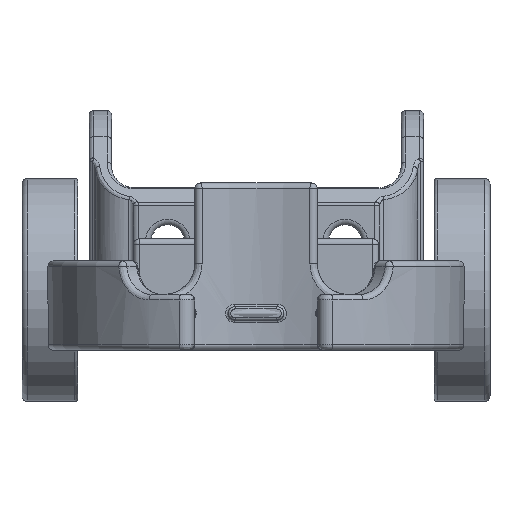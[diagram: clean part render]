
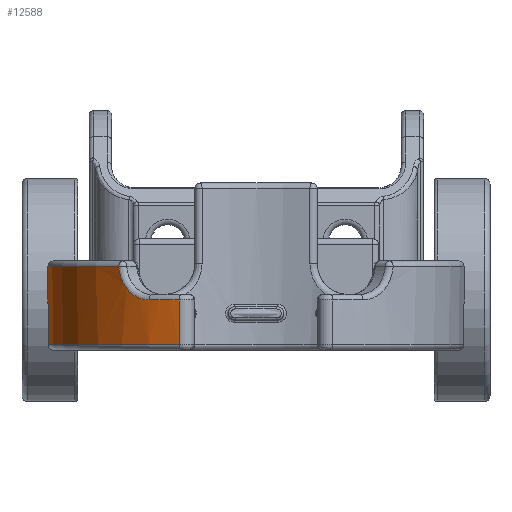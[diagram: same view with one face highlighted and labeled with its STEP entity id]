
A CAD part, front view. The second image highlights one B-rep face of the part: STEP entity #12588.
In plain terms, the highlighted cylindrical face has radius 18.7 mm (diameter 37.4 mm), a partial arc.
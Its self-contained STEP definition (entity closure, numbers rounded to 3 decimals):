
#406=B_SPLINE_CURVE_WITH_KNOTS('',3,(#20420,#20421,#20422,#20423,#20424),
 .UNSPECIFIED.,.F.,.F.,(4,1,4),(-0.489,-0.21,0.),
 .UNSPECIFIED.);
#799=LINE('',#20416,#1392);
#800=LINE('',#20427,#1393);
#1392=VECTOR('',#15576,10.);
#1393=VECTOR('',#15581,3.);
#1948=CYLINDRICAL_SURFACE('',#13619,18.7);
#2452=FACE_OUTER_BOUND('',#3308,.T.);
#3308=EDGE_LOOP('',(#8738,#8739,#8740,#8741,#8742,#8743));
#4267=CIRCLE('',#13615,18.7);
#4270=CIRCLE('',#13620,18.7);
#4271=CIRCLE('',#13621,18.7);
#5334=VERTEX_POINT('',#20389);
#5335=VERTEX_POINT('',#20393);
#5336=VERTEX_POINT('',#20415);
#5337=VERTEX_POINT('',#20417);
#5338=VERTEX_POINT('',#20419);
#5339=VERTEX_POINT('',#20425);
#6575=EDGE_CURVE('',#5334,#5335,#4267,.T.);
#6578=EDGE_CURVE('',#5336,#5334,#799,.T.);
#6579=EDGE_CURVE('',#5337,#5336,#4270,.T.);
#6580=EDGE_CURVE('',#5338,#5337,#406,.T.);
#6581=EDGE_CURVE('',#5339,#5338,#4271,.T.);
#6582=EDGE_CURVE('',#5335,#5339,#800,.T.);
#8738=ORIENTED_EDGE('',*,*,#6575,.F.);
#8739=ORIENTED_EDGE('',*,*,#6578,.F.);
#8740=ORIENTED_EDGE('',*,*,#6579,.F.);
#8741=ORIENTED_EDGE('',*,*,#6580,.F.);
#8742=ORIENTED_EDGE('',*,*,#6581,.F.);
#8743=ORIENTED_EDGE('',*,*,#6582,.F.);
#12588=ADVANCED_FACE('',(#2452),#1948,.T.);
#13615=AXIS2_PLACEMENT_3D('',#20395,#15566,#15567);
#13619=AXIS2_PLACEMENT_3D('',#20414,#15574,#15575);
#13620=AXIS2_PLACEMENT_3D('',#20418,#15577,#15578);
#13621=AXIS2_PLACEMENT_3D('',#20426,#15579,#15580);
#15566=DIRECTION('center_axis',(0.,0.,
-1.));
#15567=DIRECTION('ref_axis',(-0.975,-0.224,0.));
#15574=DIRECTION('center_axis',(0.,0.,
1.));
#15575=DIRECTION('ref_axis',(-1.,0.,0.));
#15576=DIRECTION('',(0.,0.,-1.));
#15577=DIRECTION('center_axis',(0.,0.,
1.));
#15578=DIRECTION('ref_axis',(-0.444,-0.896,0.));
#15579=DIRECTION('center_axis',(0.,0.,
1.));
#15580=DIRECTION('ref_axis',(-0.998,-0.069,0.));
#15581=DIRECTION('',(0.,0.,1.));
#20389=CARTESIAN_POINT('',(78.099,-219.15,-3.9));
#20393=CARTESIAN_POINT('',(71.214,-189.135,-3.9));
#20395=CARTESIAN_POINT('Origin',(85.,-201.77,-3.9));
#20414=CARTESIAN_POINT('Origin',(85.,-201.77,0.6));
#20415=CARTESIAN_POINT('',(78.099,-219.15,0.1));
#20416=CARTESIAN_POINT('',(78.099,-219.15,0.6));
#20417=CARTESIAN_POINT('',(75.426,-217.833,0.1));
#20418=CARTESIAN_POINT('Origin',(85.,-201.77,0.1));
#20419=CARTESIAN_POINT('',(72.69,-215.847,3.1));
#20420=CARTESIAN_POINT('Ctrl Pts',(72.69,-215.847,3.1));
#20421=CARTESIAN_POINT('Ctrl Pts',(72.756,-215.904,2.172));
#20422=CARTESIAN_POINT('Ctrl Pts',(73.427,-216.509,0.629));
#20423=CARTESIAN_POINT('Ctrl Pts',(74.81,-217.466,0.1));
#20424=CARTESIAN_POINT('Ctrl Pts',(75.426,-217.833,0.1));
#20425=CARTESIAN_POINT('',(71.214,-189.135,3.1));
#20426=CARTESIAN_POINT('Origin',(85.,-201.77,3.1));
#20427=CARTESIAN_POINT('',(71.214,-189.135,0.6));
